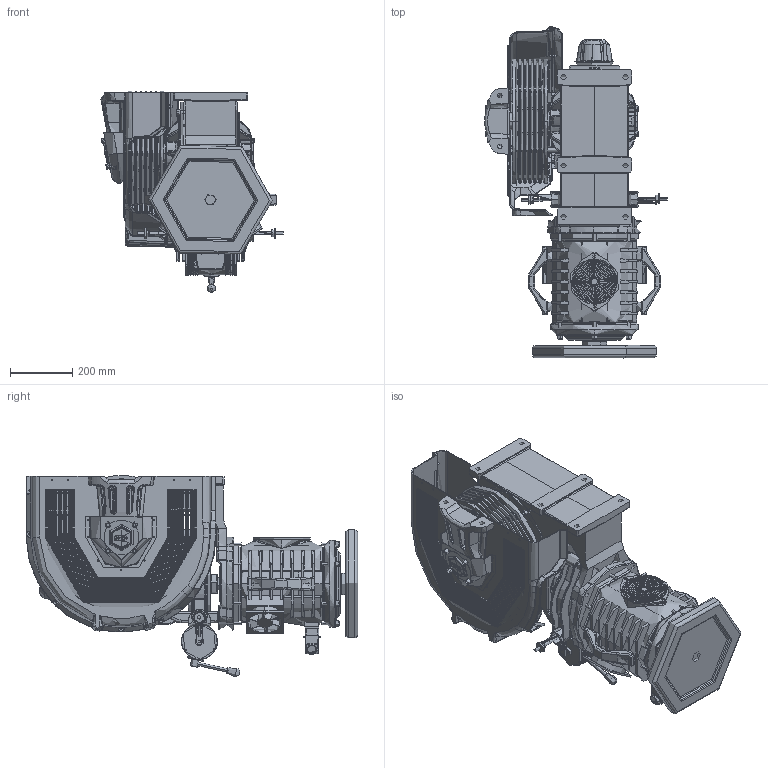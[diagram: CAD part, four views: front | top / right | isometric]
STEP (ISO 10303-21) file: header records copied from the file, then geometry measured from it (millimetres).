
FILE_DESCRIPTION (( 'STEP AP214' ), '1' );
FILE_NAME ('STC75063.STEP', '2026-01-20T09:04:53', ( '' ), ( '' ), 'SwSTEP 2.0', 'SolidWorks 2023', '' );
FILE_SCHEMA (( 'AUTOMOTIVE_DESIGN' ));
Length unit declared in the file: millimetre
Products named in the file (1): STC75063
Bounding box: 586.99 x 1068.96 x 649.18 mm (x, y, z)
Topology: 100 solids, 108 shells, 7820 faces, 19380 edges, 11684 vertices
Faces by surface type: plane 2385, cylinder 2382, bspline 1593, torus 751, cone 557, sphere 152
Full cylindrical faces by diameter (mm): 20 x3
Entity records: 297662 total; most frequent: CARTESIAN_POINT 122348, ORIENTED_EDGE 38434, DIRECTION 34407, EDGE_CURVE 19217, AXIS2_PLACEMENT_3D 13736, VERTEX_POINT 11637, EDGE_LOOP 8592, ADVANCED_FACE 7818
